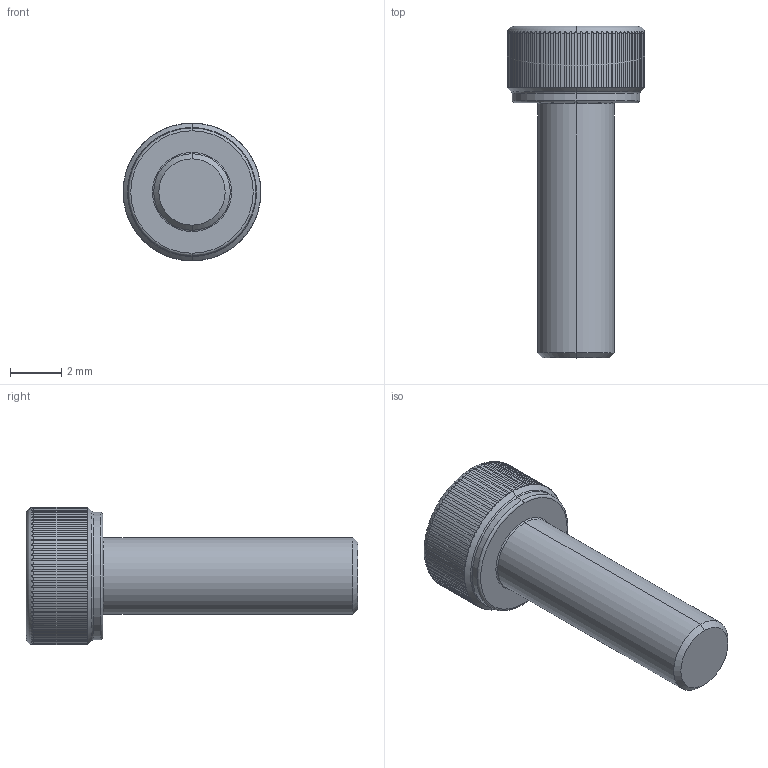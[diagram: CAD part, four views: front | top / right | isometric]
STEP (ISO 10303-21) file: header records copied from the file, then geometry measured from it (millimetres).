
FILE_DESCRIPTION (( 'STEP AP203' ), '1' );
FILE_NAME ('LGDT-304-M3x10.STEP', '2026-08-08T07:31:05', ( '' ), ( '' ), 'SwSTEP 2.0', 'SolidWorks 2020', '' );
FILE_SCHEMA (( 'CONFIG_CONTROL_DESIGN' ));
Length unit declared in the file: millimetre
Products named in the file (1): LGDT-304-M3x10
Bounding box: 5.4 x 13 x 5.4 mm (x, y, z)
Volume: 128.4 mm3; surface area: 198 mm2
Topology: 1 solids, 1 shells, 204 faces, 576 edges, 376 vertices
Faces by surface type: cylinder 175, cone 11, plane 10, torus 8
Entity records: 10019 total; most frequent: CARTESIAN_POINT 4860, ORIENTED_EDGE 1152, DIRECTION 988, EDGE_CURVE 576, AXIS2_PLACEMENT_3D 398, VERTEX_POINT 376, EDGE_LOOP 206, ADVANCED_FACE 204
